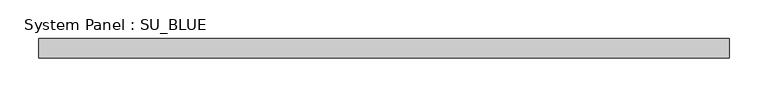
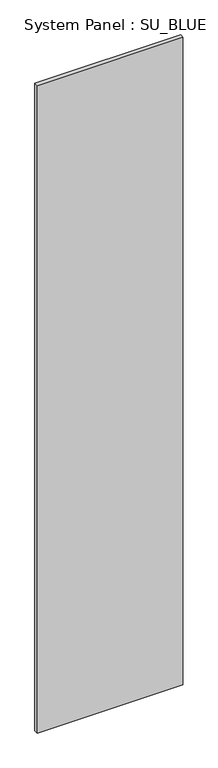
"""IFC4 building model written with IfcOpenShell, lengths in millimetres: plate geometry, System Panel : SU_BLUE."""

from ifc_helpers import new_model, si_unit, origin, origin_with_axes, place, context, project, spatial, polyline, outline, extrude, source, transform, mapped, element, save


def system_panel_su_blue_95bb2abf(model_context):
    return source(origin(), model_context, "Body", "SweptSolid", [
        extrude(outline(polyline([(447.1096078, 19.05), (-447.1096078, 19.05), (-447.1096078, 44.45), (447.1096078, 44.45), (447.1096078, 19.05)])), origin_with_axes(), (0.0, 0.0, 1.0), 4203.7),
    ])


if __name__ == "__main__":
    model = new_model("IFC4")
    model_context = context("Model", 3, world=origin())
    ifc_project = project(units=[si_unit("LENGTHUNIT", "METRE", prefix="MILLI")], contexts=[model_context])
    site = spatial("IfcSite", under=ifc_project)
    building = spatial("IfcBuilding", under=site)
    placement = place(None, origin())
    system_panel_su_blue_shape = system_panel_su_blue_95bb2abf(model_context)
    element("IfcPlate", 1, ObjectType="System Panel : SU_BLUE", at=placement, inside=building, context=model_context, shape_type="MappedRepresentation", body=[
        mapped(system_panel_su_blue_shape, transform((0.0, 0.0, 0.0), x_axis=(1.0, 0.0, 0.0), y_axis=(0.0, 1.0, 0.0), z_axis=(0.0, 0.0, 1.0))),
    ])
    save(model, "model.ifc")
